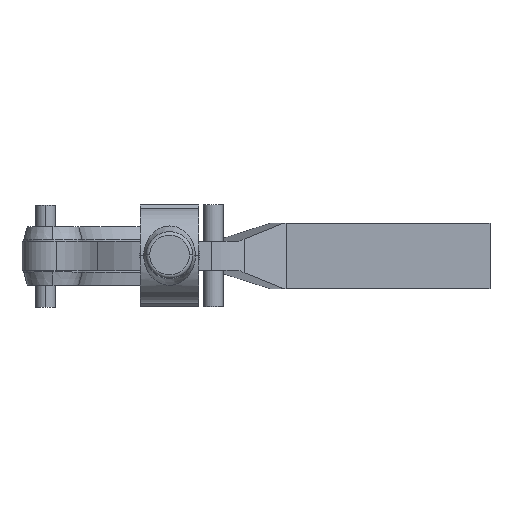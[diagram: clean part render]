
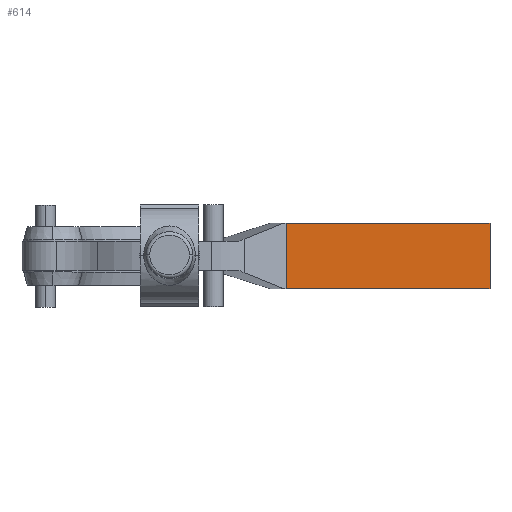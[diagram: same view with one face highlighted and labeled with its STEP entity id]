
A CAD part, top view. The second image highlights one B-rep face of the part: STEP entity #614.
In plain terms, the highlighted planar face has unit normal (0, 0, 1).
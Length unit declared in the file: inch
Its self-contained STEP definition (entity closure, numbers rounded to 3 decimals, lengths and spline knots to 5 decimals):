
#614 = ADVANCED_FACE( '', ( #808 ), #809, .T. );
#808 = FACE_OUTER_BOUND( '', #1202, .T. );
#809 = PLANE( '', #1203 );
#1202 = EDGE_LOOP( '', ( #1668, #1669, #1670, #1671 ) );
#1203 = AXIS2_PLACEMENT_3D( '', #1672, #1673, #1674 );
#1668 = ORIENTED_EDGE( '', *, *, #3111, .T. );
#1669 = ORIENTED_EDGE( '', *, *, #3115, .T. );
#1670 = ORIENTED_EDGE( '', *, *, #3097, .F. );
#1671 = ORIENTED_EDGE( '', *, *, #3114, .F. );
#1672 = CARTESIAN_POINT( '', ( 3.99764, 0.28125, 1.75 ) );
#1673 = DIRECTION( '', ( 0., 0., 1. ) );
#1674 = DIRECTION( '', ( 1., 0., 0. ) );
#3097 = EDGE_CURVE( '', #3599, #3601, #3602, .T. );
#3111 = EDGE_CURVE( '', #3625, #3623, #3626, .T. );
#3114 = EDGE_CURVE( '', #3625, #3599, #3629, .T. );
#3115 = EDGE_CURVE( '', #3623, #3601, #3630, .T. );
#3599 = VERTEX_POINT( '', #4416 );
#3601 = VERTEX_POINT( '', #4419 );
#3602 = LINE( '', #4420, #4421 );
#3623 = VERTEX_POINT( '', #4451 );
#3625 = VERTEX_POINT( '', #4454 );
#3626 = LINE( '', #4455, #4456 );
#3629 = LINE( '', #4461, #4462 );
#3630 = LINE( '', #4463, #4464 );
#4416 = CARTESIAN_POINT( '', ( 2.25236, 0.28125, 1.75 ) );
#4419 = CARTESIAN_POINT( '', ( 3.99764, 0.28125, 1.75 ) );
#4420 = CARTESIAN_POINT( '', ( 2.25236, 0.28125, 1.75 ) );
#4421 = VECTOR( '', #5513, 1. );
#4451 = CARTESIAN_POINT( '', ( 3.99764, -0.28125, 1.75 ) );
#4454 = CARTESIAN_POINT( '', ( 2.25236, -0.28125, 1.75 ) );
#4455 = CARTESIAN_POINT( '', ( 2.25236, -0.28125, 1.75 ) );
#4456 = VECTOR( '', #5533, 1. );
#4461 = CARTESIAN_POINT( '', ( 2.25236, -0.28125, 1.75 ) );
#4462 = VECTOR( '', #5536, 1. );
#4463 = CARTESIAN_POINT( '', ( 3.99764, -0.28125, 1.75 ) );
#4464 = VECTOR( '', #5537, 1. );
#5513 = DIRECTION( '', ( 1., 0., 0. ) );
#5533 = DIRECTION( '', ( 1., 0., 0. ) );
#5536 = DIRECTION( '', ( 0., 1., 0. ) );
#5537 = DIRECTION( '', ( 0., 1., 0. ) );
